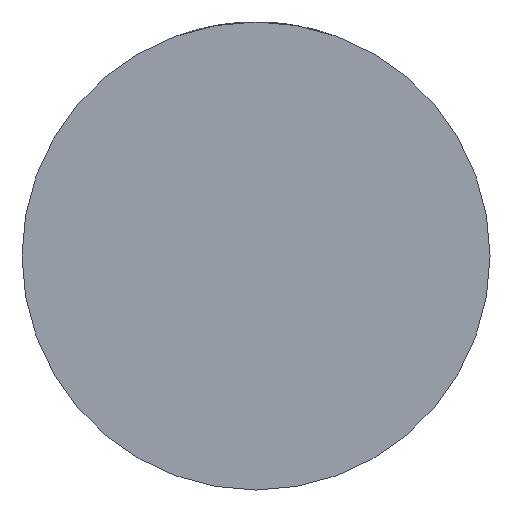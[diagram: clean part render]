
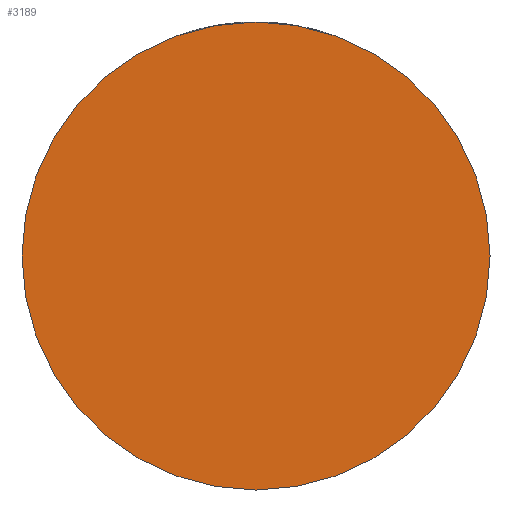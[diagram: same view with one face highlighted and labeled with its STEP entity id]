
A CAD part, front view. The second image highlights one B-rep face of the part: STEP entity #3189.
In plain terms, the highlighted planar face has unit normal (0, -1, 0).
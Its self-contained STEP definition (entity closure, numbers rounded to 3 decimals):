
#277 = CARTESIAN_POINT ( 'NONE',  ( 0., -26., 0. ) ) ;
#316 = CARTESIAN_POINT ( 'NONE',  ( -32.5, -26., 0. ) ) ;
#338 = CIRCLE ( 'NONE', #3199, 32.5 ) ;
#613 = AXIS2_PLACEMENT_3D ( 'NONE', #3828, #1760, #3175 ) ;
#820 = CARTESIAN_POINT ( 'NONE',  ( 0., -26., 0. ) ) ;
#1017 = ORIENTED_EDGE ( 'NONE', *, *, #4311, .T. ) ;
#1090 = PLANE ( 'NONE',  #1607 ) ;
#1131 = DIRECTION ( 'NONE',  ( 0., -1., 0. ) ) ;
#1195 = EDGE_CURVE ( 'NONE', #3468, #1519, #2975, .T. ) ;
#1326 = DIRECTION ( 'NONE',  ( 1., 0., 0. ) ) ;
#1461 = DIRECTION ( 'NONE',  ( 1., 0., 0. ) ) ;
#1485 = FACE_OUTER_BOUND ( 'NONE', #1585, .T. ) ;
#1519 = VERTEX_POINT ( 'NONE', #3353 ) ;
#1585 = EDGE_LOOP ( 'NONE', ( #3545, #1017 ) ) ;
#1607 = AXIS2_PLACEMENT_3D ( 'NONE', #820, #1131, #1461 ) ;
#1760 = DIRECTION ( 'NONE',  ( 0., -1., 0. ) ) ;
#2975 = CIRCLE ( 'NONE', #613, 32.5 ) ;
#3035 = DIRECTION ( 'NONE',  ( 0., -1., 0. ) ) ;
#3175 = DIRECTION ( 'NONE',  ( 1., 0., 0. ) ) ;
#3189 = ADVANCED_FACE ( 'NONE', ( #1485 ), #1090, .T. ) ;
#3199 = AXIS2_PLACEMENT_3D ( 'NONE', #277, #3035, #1326 ) ;
#3353 = CARTESIAN_POINT ( 'NONE',  ( 32.5, -26., 0. ) ) ;
#3468 = VERTEX_POINT ( 'NONE', #316 ) ;
#3545 = ORIENTED_EDGE ( 'NONE', *, *, #1195, .T. ) ;
#3828 = CARTESIAN_POINT ( 'NONE',  ( 0., -26., 0. ) ) ;
#4311 = EDGE_CURVE ( 'NONE', #1519, #3468, #338, .T. ) ;
